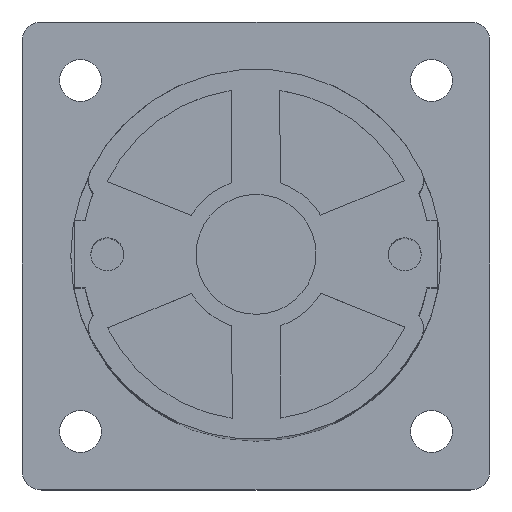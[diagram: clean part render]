
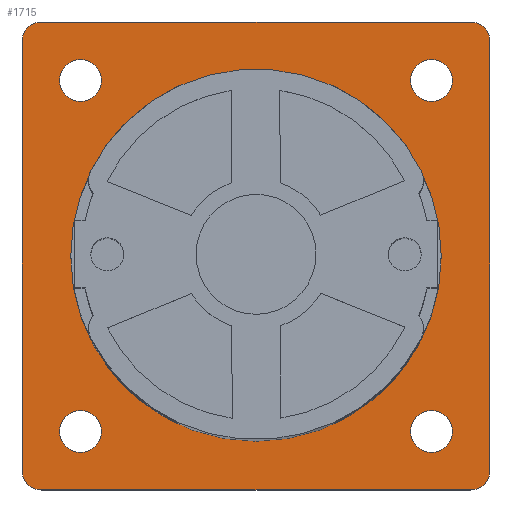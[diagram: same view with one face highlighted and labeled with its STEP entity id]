
A CAD part, top view. The second image highlights one B-rep face of the part: STEP entity #1715.
In plain terms, the highlighted planar face has unit normal (0, 0, 1).
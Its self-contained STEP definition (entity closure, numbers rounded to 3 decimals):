
#433=FACE_BOUND('',#4675,.T.);
#434=FACE_BOUND('',#4676,.T.);
#435=FACE_BOUND('',#4677,.T.);
#436=FACE_BOUND('',#4678,.T.);
#437=FACE_BOUND('',#4679,.T.);
#438=FACE_BOUND('',#4680,.T.);
#762=CIRCLE('',#20040,2.15);
#766=CIRCLE('',#20047,2.15);
#770=CIRCLE('',#20054,2.15);
#774=CIRCLE('',#20061,2.15);
#807=CIRCLE('',#20127,19.);
#852=CIRCLE('',#20222,2.);
#853=CIRCLE('',#20224,2.);
#854=CIRCLE('',#20226,2.);
#855=CIRCLE('',#20228,2.);
#1715=ADVANCED_FACE('',(#433,#434,#435,#436,#437,#438),#2762,.F.);
#2762=PLANE('',#20235);
#4675=EDGE_LOOP('',(#6518,#6519,#6520,#6521,#6522,#6523,#6524,#6525));
#4676=EDGE_LOOP('',(#6526));
#4677=EDGE_LOOP('',(#6527));
#4678=EDGE_LOOP('',(#6528));
#4679=EDGE_LOOP('',(#6529));
#4680=EDGE_LOOP('',(#6530));
#6518=ORIENTED_EDGE('',*,*,#13878,.F.);
#6519=ORIENTED_EDGE('',*,*,#13865,.F.);
#6520=ORIENTED_EDGE('',*,*,#13875,.F.);
#6521=ORIENTED_EDGE('',*,*,#13868,.F.);
#6522=ORIENTED_EDGE('',*,*,#13876,.F.);
#6523=ORIENTED_EDGE('',*,*,#13871,.F.);
#6524=ORIENTED_EDGE('',*,*,#13877,.F.);
#6525=ORIENTED_EDGE('',*,*,#13874,.F.);
#6526=ORIENTED_EDGE('',*,*,#13734,.F.);
#6527=ORIENTED_EDGE('',*,*,#13601,.T.);
#6528=ORIENTED_EDGE('',*,*,#13597,.T.);
#6529=ORIENTED_EDGE('',*,*,#13593,.T.);
#6530=ORIENTED_EDGE('',*,*,#13589,.T.);
#11612=VERTEX_POINT('',#27403);
#11616=VERTEX_POINT('',#27414);
#11620=VERTEX_POINT('',#27425);
#11624=VERTEX_POINT('',#27436);
#11753=VERTEX_POINT('',#27699);
#11842=VERTEX_POINT('',#27967);
#11843=VERTEX_POINT('',#27969);
#11844=VERTEX_POINT('',#27973);
#11845=VERTEX_POINT('',#27975);
#11846=VERTEX_POINT('',#27979);
#11847=VERTEX_POINT('',#27981);
#11848=VERTEX_POINT('',#27985);
#11849=VERTEX_POINT('',#27987);
#13589=EDGE_CURVE('',#11612,#11612,#762,.T.);
#13593=EDGE_CURVE('',#11616,#11616,#766,.T.);
#13597=EDGE_CURVE('',#11620,#11620,#770,.T.);
#13601=EDGE_CURVE('',#11624,#11624,#774,.T.);
#13734=EDGE_CURVE('',#11753,#11753,#807,.T.);
#13865=EDGE_CURVE('',#11843,#11842,#852,.T.);
#13868=EDGE_CURVE('',#11845,#11844,#853,.T.);
#13871=EDGE_CURVE('',#11847,#11846,#854,.T.);
#13874=EDGE_CURVE('',#11849,#11848,#855,.T.);
#13875=EDGE_CURVE('',#11844,#11843,#16532,.T.);
#13876=EDGE_CURVE('',#11846,#11845,#16533,.T.);
#13877=EDGE_CURVE('',#11848,#11847,#16534,.T.);
#13878=EDGE_CURVE('',#11842,#11849,#16535,.T.);
#16532=LINE('',#27990,#18369);
#16533=LINE('',#27992,#18370);
#16534=LINE('',#27994,#18371);
#16535=LINE('',#27996,#18372);
#18369=VECTOR('',#22580,1.);
#18370=VECTOR('',#22583,1.);
#18371=VECTOR('',#22586,1.);
#18372=VECTOR('',#22589,1.);
#20040=AXIS2_PLACEMENT_3D('',#27402,#22040,#22041);
#20047=AXIS2_PLACEMENT_3D('',#27413,#22054,#22055);
#20054=AXIS2_PLACEMENT_3D('',#27424,#22068,#22069);
#20061=AXIS2_PLACEMENT_3D('',#27435,#22082,#22083);
#20127=AXIS2_PLACEMENT_3D('',#27698,#22282,#22283);
#20222=AXIS2_PLACEMENT_3D('',#27970,#22558,#22559);
#20224=AXIS2_PLACEMENT_3D('',#27976,#22564,#22565);
#20226=AXIS2_PLACEMENT_3D('',#27982,#22570,#22571);
#20228=AXIS2_PLACEMENT_3D('',#27988,#22576,#22577);
#20235=AXIS2_PLACEMENT_3D('',#27999,#22594,#22595);
#22040=DIRECTION('',(0.,0.,-1.));
#22041=DIRECTION('',(-1.,0.,0.));
#22054=DIRECTION('',(0.,0.,-1.));
#22055=DIRECTION('',(-1.,0.,0.));
#22068=DIRECTION('',(0.,0.,-1.));
#22069=DIRECTION('',(-1.,0.,0.));
#22082=DIRECTION('',(0.,0.,-1.));
#22083=DIRECTION('',(-1.,0.,0.));
#22282=DIRECTION('',(0.,0.,1.));
#22283=DIRECTION('',(-1.,0.,0.));
#22558=DIRECTION('',(0.,0.,-1.));
#22559=DIRECTION('',(1.,0.,0.));
#22564=DIRECTION('',(0.,0.,-1.));
#22565=DIRECTION('',(1.,0.,0.));
#22570=DIRECTION('',(0.,0.,-1.));
#22571=DIRECTION('',(1.,0.,0.));
#22576=DIRECTION('',(0.,0.,-1.));
#22577=DIRECTION('',(1.,0.,0.));
#22580=DIRECTION('',(0.,-1.,0.));
#22583=DIRECTION('',(1.,0.,0.));
#22586=DIRECTION('',(0.,1.,0.));
#22589=DIRECTION('',(-1.,0.,0.));
#22594=DIRECTION('',(0.,0.,-1.));
#22595=DIRECTION('',(-1.,0.,0.));
#27402=CARTESIAN_POINT('',(18.,-18.,2.5));
#27403=CARTESIAN_POINT('',(15.85,-18.,2.5));
#27413=CARTESIAN_POINT('',(18.,18.,2.5));
#27414=CARTESIAN_POINT('',(15.85,18.,2.5));
#27424=CARTESIAN_POINT('',(-18.,18.,2.5));
#27425=CARTESIAN_POINT('',(-20.15,18.,2.5));
#27435=CARTESIAN_POINT('',(-18.,-18.,2.5));
#27436=CARTESIAN_POINT('',(-20.15,-18.,2.5));
#27698=CARTESIAN_POINT('',(0.,0.,2.5));
#27699=CARTESIAN_POINT('',(-19.,0.,2.5));
#27967=CARTESIAN_POINT('',(22.,-24.,2.5));
#27969=CARTESIAN_POINT('',(24.,-22.,2.5));
#27970=CARTESIAN_POINT('',(22.,-22.,2.5));
#27973=CARTESIAN_POINT('',(24.,22.,2.5));
#27975=CARTESIAN_POINT('',(22.,24.,2.5));
#27976=CARTESIAN_POINT('',(22.,22.,2.5));
#27979=CARTESIAN_POINT('',(-22.,24.,2.5));
#27981=CARTESIAN_POINT('',(-24.,22.,2.5));
#27982=CARTESIAN_POINT('',(-22.,22.,2.5));
#27985=CARTESIAN_POINT('',(-24.,-22.,2.5));
#27987=CARTESIAN_POINT('',(-22.,-24.,2.5));
#27988=CARTESIAN_POINT('',(-22.,-22.,2.5));
#27990=CARTESIAN_POINT('',(24.,22.,2.5));
#27992=CARTESIAN_POINT('',(-22.,24.,2.5));
#27994=CARTESIAN_POINT('',(-24.,-22.,2.5));
#27996=CARTESIAN_POINT('',(22.,-24.,2.5));
#27999=CARTESIAN_POINT('',(-22.,-22.,2.5));
